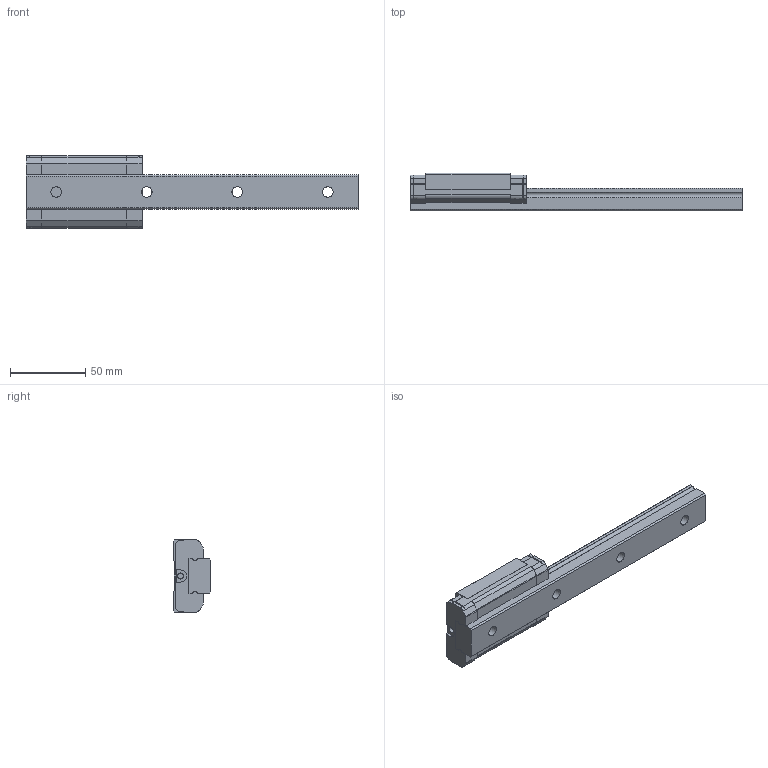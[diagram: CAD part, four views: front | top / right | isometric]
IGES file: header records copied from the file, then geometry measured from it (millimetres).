
Start section: Data from Parasolid IGES Translator 26.0.171, Copyright(c) 2006 Siemens PLM Software. All Rights Reserved.
Global section: file name: SRS25MSS-220LM_G20_0_Without_grease_nipple_0_0_0_0_1.igs; native system: By Siemens PLM Incorporated; preprocessor: XPlus GENERIC/IGES 26.0.171; author: Noname; organization: Noname; date: 20240517.091331; units: millimetre
Bounding box: 220 x 25 x 48 mm (x, y, z)
Surface area: 32461.2 mm2 (no closed solid volume)
Topology: 0 solids, 0 shells, 168 faces, 904 edges, 876 vertices
Faces by surface type: extrusion 116, revolution 52
